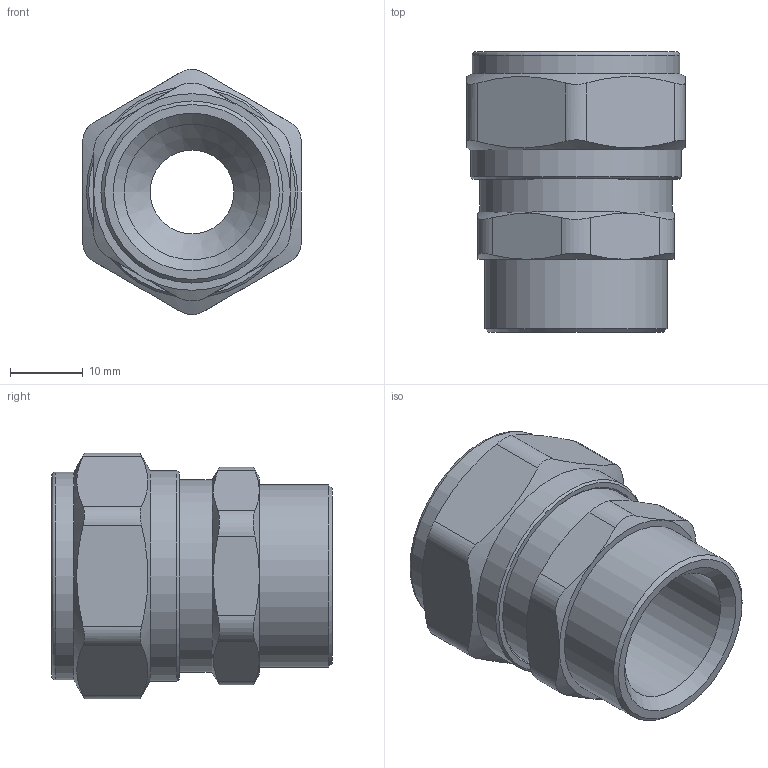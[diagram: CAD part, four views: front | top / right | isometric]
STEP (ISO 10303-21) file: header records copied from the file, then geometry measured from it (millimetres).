
FILE_DESCRIPTION(('STEP AP203'), '1');
FILE_NAME('VTm.302.N.002004', '', ('UNSPECIFIED'), ('UNSPECIFIED'), 'C3D Converter', 'C3D Toolkit', '');
FILE_SCHEMA(('CONFIG_CONTROL_DESIGN'));
Length unit declared in the file: millimetre
Products named in the file (1): ВР.302634.061.000 СБ
Bounding box: 30 x 38.53 x 33.7 mm (x, y, z)
Volume: 14110.6 mm3; surface area: 10142.2 mm2
Topology: 1 solids, 1 shells, 305 faces, 822 edges, 540 vertices
Faces by surface type: extrusion 117, plane 104, cylinder 37, torus 27, cone 20
Full cylindrical faces by diameter (mm): 11.5 x1, 15.8 x4, 15.9 x1, 18.632 x1, 20.1 x1, 20.2 x1, 20.7 x1, 24.118 x1, 25 x1, 26.441 x1, 28.5 x1, 29 x1
Entity records: 11740 total; most frequent: CARTESIAN_POINT 4823, ORIENTED_EDGE 1560, DIRECTION 1032, EDGE_CURVE 780, VERTEX_POINT 539, VECTOR 446, B_SPLINE_CURVE_WITH_KNOTS 443, EDGE_LOOP 369
